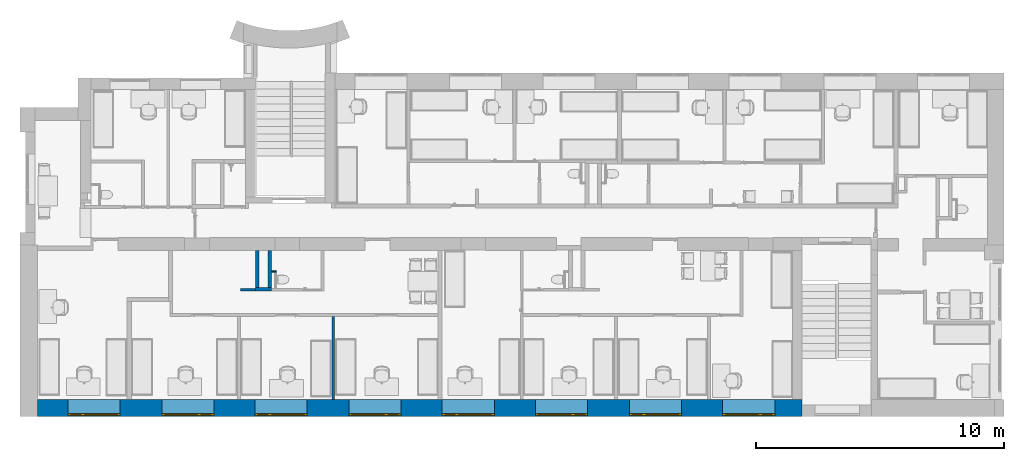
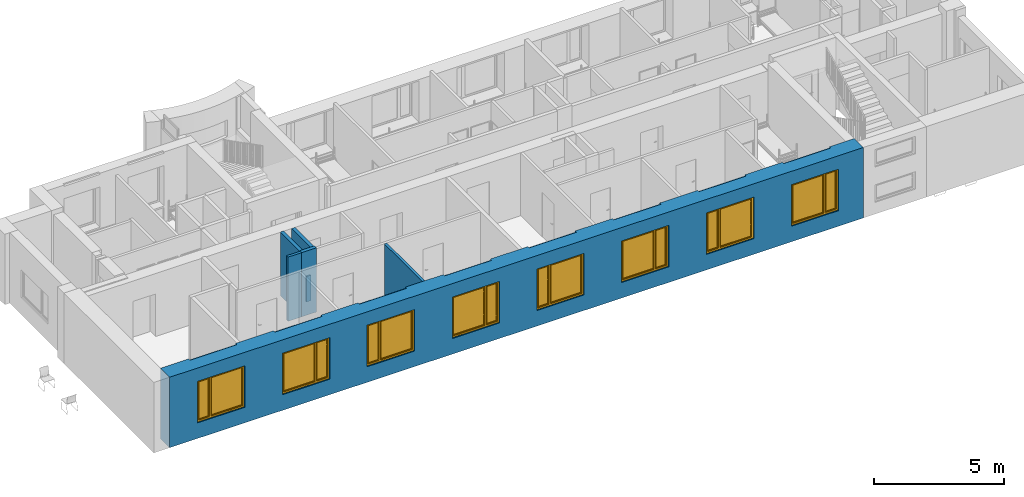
# One storey, part 3 of 48: 8 windows, 7 walls, 11 openings.
"""IFC2X3 building model written with IfcOpenShell, lengths in millimetres."""

from ifc_helpers import new_model, entity, si_unit, converted_unit, derived_unit, direction, frame, frame_2d, origin, place, context, subcontext, project, spatial, polyline, rectangle, extrude, clip, bounded_halfspace, faceted_brep, source, transform, mapped, material, material_list, layer, layer_set, layer_usage, type_object, type_shapes, element, fill, save


model = new_model("IFC2X3")

# Units and contexts
model_context = context("Model", 3, precision=0.01, world=origin(), true_north=direction((6.12303176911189e-17, 1.0)))
body_context = subcontext(model_context, "Body", "Model", "MODEL_VIEW")
ifc_project = project(units=[si_unit("LENGTHUNIT", "METRE", prefix="MILLI"), si_unit("AREAUNIT", "SQUARE_METRE"), si_unit("VOLUMEUNIT", "CUBIC_METRE"), converted_unit("PLANEANGLEUNIT", "DEGREE", entity("IfcRatioMeasure", 0.0174532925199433), si_unit("PLANEANGLEUNIT", "RADIAN"), dimensions=[0, 0, 0, 0, 0, 0, 0]), si_unit("MASSUNIT", "GRAM", prefix="KILO"), derived_unit("MASSDENSITYUNIT", [(si_unit("MASSUNIT", "GRAM", prefix="KILO"), 1), (si_unit("LENGTHUNIT", "METRE"), -3)]), si_unit("TIMEUNIT", "SECOND"), si_unit("FREQUENCYUNIT", "HERTZ"), si_unit("THERMODYNAMICTEMPERATUREUNIT", "DEGREE_CELSIUS"), derived_unit("THERMALTRANSMITTANCEUNIT", [(si_unit("MASSUNIT", "GRAM", prefix="KILO"), 1), (si_unit("THERMODYNAMICTEMPERATUREUNIT", "KELVIN"), -1), (si_unit("TIMEUNIT", "SECOND"), -3)]), derived_unit("VOLUMETRICFLOWRATEUNIT", [(si_unit("LENGTHUNIT", "METRE"), 3), (si_unit("TIMEUNIT", "SECOND"), -1)]), si_unit("ELECTRICCURRENTUNIT", "AMPERE"), si_unit("ELECTRICVOLTAGEUNIT", "VOLT"), si_unit("POWERUNIT", "WATT"), si_unit("FORCEUNIT", "NEWTON", prefix="KILO"), si_unit("ILLUMINANCEUNIT", "LUX"), si_unit("LUMINOUSFLUXUNIT", "LUMEN"), si_unit("LUMINOUSINTENSITYUNIT", "CANDELA"), derived_unit("USERDEFINED", [(si_unit("MASSUNIT", "GRAM", prefix="KILO"), -1), (si_unit("LENGTHUNIT", "METRE"), -2), (si_unit("TIMEUNIT", "SECOND"), 3), (si_unit("LUMINOUSFLUXUNIT", "LUMEN"), 1)]), derived_unit("LINEARVELOCITYUNIT", [(si_unit("LENGTHUNIT", "METRE"), 1), (si_unit("TIMEUNIT", "SECOND"), -1)]), si_unit("PRESSUREUNIT", "PASCAL"), derived_unit("USERDEFINED", [(si_unit("LENGTHUNIT", "METRE"), -2), (si_unit("MASSUNIT", "GRAM", prefix="KILO"), 1), (si_unit("TIMEUNIT", "SECOND"), -2)]), derived_unit("LINEARFORCEUNIT", [(si_unit("MASSUNIT", "GRAM", prefix="KILO"), 1), (si_unit("LENGTHUNIT", "METRE"), 1), (si_unit("TIMEUNIT", "SECOND"), -2), (si_unit("LENGTHUNIT", "METRE"), -1)]), derived_unit("PLANARFORCEUNIT", [(si_unit("MASSUNIT", "GRAM", prefix="KILO"), 1), (si_unit("LENGTHUNIT", "METRE"), 1), (si_unit("TIMEUNIT", "SECOND"), -2), (si_unit("LENGTHUNIT", "METRE"), -2)])], contexts=[model_context])

# Site, building, storey
site_placement = place(None, origin())
site = spatial("IfcSite", under=ifc_project, at=site_placement, Name="Default", CompositionType="ELEMENT")
building_placement = place(site_placement, origin())
building = spatial("IfcBuilding", under=site, at=building_placement, Name="SMA ARH", CompositionType="ELEMENT")
storey_placement = place(building_placement, frame((0.0, 0.0, 6600.0)))
storey = spatial("IfcBuildingStorey", under=building, at=storey_placement, Name="3 Korrus", CompositionType="ELEMENT", Elevation=6599.99999999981)

# Wall, openings, windows
ifc_material_1 = material(Name="_ol.olev sein")
ifc_layer_1 = layer(ifc_material_1, 700.0)
ifc_layer_set_1 = layer_set([ifc_layer_1], Name="Basic Wall:Generic - 700mm")
ifc_layer_usage_1 = layer_usage(ifc_layer_set_1, "AXIS2", "POSITIVE", -350.0)
wall_type_1 = type_object("IfcWallType", Name="Basic Wall:Generic - 700mm", PredefinedType="STANDARD", material=ifc_layer_set_1)
wall_1_placement = place(storey_placement, frame((0.0, -350.0, 0.0)))
wall_1 = element("IfcWallStandardCase", 1, at=wall_1_placement, inside=storey, type_object=wall_type_1, material=ifc_layer_usage_1, Name="Basic Wall:Generic - 700mm", ObjectType="Basic Wall:Generic - 700mm", context=body_context, shape_type="SweptSolid", body=[
    extrude(rectangle(XDim=30830.0, YDim=700.0, at=frame_2d((15415.0, 8.5265128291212e-14), x_axis=(-1.0, 0.0))), origin(), (0.0, 0.0, 1.0), 3309.99999999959),
])
opening_1_placement = place(wall_1_placement, origin())
element("IfcOpeningElement", 2, at=opening_1_placement, cuts=wall_1, Name="Basic Wall:Generic - 700mm", ObjectType="Recess", context=body_context, shape_type="SweptSolid", body=[
    extrude(rectangle(XDim=761.05, YDim=2098.41008000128, at=frame_2d((-2.1600499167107e-12, 0.0), x_axis=(0.0, 1.0))), frame((28680.7949599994, 250.0, 319.475000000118), z_axis=(0.0, 1.0, 0.0), x_axis=(1.0, 0.0, 0.0)), (0.0, 0.0, 1.0), 100.0),
    extrude(rectangle(XDim=761.05, YDim=2098.41008000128, at=frame_2d((2.1600499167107e-12, 0.0), x_axis=(0.0, 1.0))), frame((24915.7949599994, 250.0, 319.47500000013), z_axis=(0.0, 1.0, 0.0), x_axis=(1.0, 0.0, 0.0)), (0.0, 0.0, 1.0), 100.0),
    extrude(rectangle(XDim=761.05, YDim=2098.41008000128, at=frame_2d((-2.1600499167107e-12, 0.0), x_axis=(0.0, 1.0))), frame((21130.7949599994, 250.0, 319.475000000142), z_axis=(0.0, 1.0, 0.0), x_axis=(1.0, 0.0, 0.0)), (0.0, 0.0, 1.0), 100.0),
    extrude(rectangle(XDim=761.05, YDim=2098.41008000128, at=frame_2d((0.0, 0.0), x_axis=(0.0, 1.0))), frame((17370.7949599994, 250.0, 319.475000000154), z_axis=(0.0, 1.0, 0.0), x_axis=(1.0, 0.0, 0.0)), (0.0, 0.0, 1.0), 100.0),
    extrude(rectangle(XDim=761.05, YDim=2098.41008000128, at=frame_2d((-2.1600499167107e-12, 0.0), x_axis=(0.0, 1.0))), frame((13610.7949599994, 250.0, 319.475000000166), z_axis=(0.0, 1.0, 0.0), x_axis=(1.0, 0.0, 0.0)), (0.0, 0.0, 1.0), 100.0),
    extrude(rectangle(XDim=761.05, YDim=2098.41008000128, at=frame_2d((0.0, 0.0), x_axis=(0.0, 1.0))), frame((9830.79495999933, 250.0, 319.475000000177), z_axis=(0.0, 1.0, 0.0), x_axis=(1.0, 0.0, 0.0)), (0.0, 0.0, 1.0), 100.0),
    extrude(rectangle(XDim=761.05, YDim=2098.41008000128, at=frame_2d((0.0, 0.0), x_axis=(0.0, 1.0))), frame((6070.79495999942, 250.0, 319.475000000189), z_axis=(0.0, 1.0, 0.0), x_axis=(1.0, 0.0, 0.0)), (0.0, 0.0, 1.0), 100.0),
    extrude(rectangle(XDim=761.05, YDim=2098.41008000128, at=frame_2d((1.13686837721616e-13, 0.0), x_axis=(0.0, 1.0))), frame((2290.79495999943, 250.0, 319.475000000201), z_axis=(0.0, 1.0, 0.0), x_axis=(1.0, 0.0, 0.0)), (0.0, 0.0, 1.0), 100.0),
    extrude(rectangle(XDim=761.05, YDim=2098.41008000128, at=frame_2d((2.1600499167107e-12, 0.0), x_axis=(0.0, 1.0))), frame((28680.7949599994, 250.0, 3629.47499999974), z_axis=(0.0, 1.0, 0.0), x_axis=(1.0, 0.0, 0.0)), (0.0, 0.0, 1.0), 100.0),
    extrude(rectangle(XDim=761.05, YDim=2098.41008000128, at=frame_2d((-2.1600499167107e-12, 0.0), x_axis=(0.0, 1.0))), frame((24915.7949599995, 250.0, 3629.47499999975), z_axis=(0.0, 1.0, 0.0), x_axis=(1.0, 0.0, 0.0)), (0.0, 0.0, 1.0), 100.0),
    extrude(rectangle(XDim=761.05, YDim=2098.41008000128, at=frame_2d((0.0, 0.0), x_axis=(0.0, 1.0))), frame((21130.7949599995, 250.0, 3629.47499999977), z_axis=(0.0, 1.0, 0.0), x_axis=(1.0, 0.0, 0.0)), (0.0, 0.0, 1.0), 100.0),
    extrude(rectangle(XDim=761.05, YDim=2098.41008000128, at=frame_2d((0.0, 0.0), x_axis=(0.0, 1.0))), frame((17370.7949599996, 250.0, 3629.47499999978), z_axis=(0.0, 1.0, 0.0), x_axis=(1.0, 0.0, 0.0)), (0.0, 0.0, 1.0), 100.0),
    extrude(rectangle(XDim=761.05, YDim=2098.41008000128, at=frame_2d((0.0, 0.0), x_axis=(0.0, 1.0))), frame((13610.7949599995, 250.0, 3629.47499999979), z_axis=(0.0, 1.0, 0.0), x_axis=(1.0, 0.0, 0.0)), (0.0, 0.0, 1.0), 100.0),
    extrude(rectangle(XDim=761.05, YDim=2098.41008000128, at=frame_2d((0.0, 0.0), x_axis=(0.0, 1.0))), frame((9830.79495999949, 250.0, 3629.47499999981), z_axis=(0.0, 1.0, 0.0), x_axis=(1.0, 0.0, 0.0)), (0.0, 0.0, 1.0), 100.0),
    extrude(rectangle(XDim=761.05, YDim=2098.41008000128, at=frame_2d((0.0, 0.0), x_axis=(0.0, 1.0))), frame((6070.79495999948, 250.0, 3629.47499999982), z_axis=(0.0, 1.0, 0.0), x_axis=(1.0, 0.0, 0.0)), (0.0, 0.0, 1.0), 100.0),
    extrude(rectangle(XDim=761.05, YDim=2098.41008000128, at=frame_2d((1.13686837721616e-13, 0.0), x_axis=(0.0, 1.0))), frame((2290.79495999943, 250.0, 3629.47499999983), z_axis=(0.0, 1.0, 0.0), x_axis=(1.0, 0.0, 0.0)), (0.0, 0.0, 1.0), 100.0),
])
opening_2_placement = place(wall_1_placement, origin())
element("IfcOpeningElement", 3, at=opening_2_placement, cuts=wall_1, Name="Basic Wall:Generic - 700mm", ObjectType="Opening", context=body_context, shape_type="SweptSolid", body=[
    extrude(rectangle(XDim=820.0, YDim=1800.0, at=frame_2d((0.0, 0.0), x_axis=(0.0, 1.0))), frame((32250.0, -1404.0, 960.0), z_axis=(0.0, 1.0, 0.0), x_axis=(-1.0, 0.0, 0.0)), (0.0, 0.0, 1.0), 3048.0),
])
opening_3_placement = place(wall_1_placement, origin())
element("IfcOpeningElement", 4, at=opening_3_placement, cuts=wall_1, Name="Basic Wall:Generic - 700mm", ObjectType="Opening", context=body_context, shape_type="SweptSolid", body=[
    extrude(rectangle(XDim=820.0, YDim=1800.0, at=frame_2d((0.0, 0.0), x_axis=(0.0, 1.0))), frame((32250.0, -1404.0, 2620.0), z_axis=(0.0, 1.0, 0.0), x_axis=(-1.0, 0.0, 0.0)), (0.0, 0.0, 1.0), 3048.0),
])
opening_4_placement = place(wall_1_placement, frame((3340.0, 350.0, 730.0)))
opening_4 = element("IfcOpeningElement", 5, at=opening_4_placement, cuts=wall_1, Name="SMA_W2, 2-jaotus:A-00 - 2100x1900:1", ObjectType="Opening", context=body_context, shape_type="SweptSolid", body=[
    extrude(rectangle(XDim=1950.0, YDim=2100.0, at=frame_2d((975.0, 1050.0), x_axis=(1.0, 0.0))), frame((0.0, 0.0, 0.0), z_axis=(0.0, -1.0, 0.0), x_axis=(0.0, 0.0, 1.0)), (0.0, 0.0, 1.0), 700.0),
])
opening_5_placement = place(wall_1_placement, frame((7120.0, 350.0, 730.0)))
opening_5 = element("IfcOpeningElement", 6, at=opening_5_placement, cuts=wall_1, Name="SMA_W2, 2-jaotus:A-00 - 2100x1900:1", ObjectType="Opening", context=body_context, shape_type="SweptSolid", body=[
    extrude(rectangle(XDim=1950.0, YDim=2100.0, at=frame_2d((975.0, 1050.0), x_axis=(1.0, 0.0))), frame((0.0, 0.0, 0.0), z_axis=(0.0, -1.0, 0.0), x_axis=(0.0, 0.0, 1.0)), (0.0, 0.0, 1.0), 700.0),
])
opening_6_placement = place(wall_1_placement, frame((10880.0, 350.0, 730.0)))
opening_6 = element("IfcOpeningElement", 7, at=opening_6_placement, cuts=wall_1, Name="SMA_W2, 2-jaotus:A-00 - 2100x1900:1", ObjectType="Opening", context=body_context, shape_type="SweptSolid", body=[
    extrude(rectangle(XDim=1950.0, YDim=2100.0, at=frame_2d((975.0, 1050.0), x_axis=(1.0, 0.0))), frame((0.0, 0.0, 0.0), z_axis=(0.0, -1.0, 0.0), x_axis=(0.0, 0.0, 1.0)), (0.0, 0.0, 1.0), 700.0),
])
opening_7_placement = place(wall_1_placement, frame((14660.0, 350.0, 730.0)))
opening_7 = element("IfcOpeningElement", 8, at=opening_7_placement, cuts=wall_1, Name="SMA_W2, 2-jaotus:A-00 - 2100x1900:1", ObjectType="Opening", context=body_context, shape_type="SweptSolid", body=[
    extrude(rectangle(XDim=1950.0, YDim=2100.0, at=frame_2d((975.0, 1050.0), x_axis=(1.0, 0.0))), frame((0.0, 0.0, 0.0), z_axis=(0.0, -1.0, 0.0), x_axis=(0.0, 0.0, 1.0)), (0.0, 0.0, 1.0), 700.0),
])
opening_8_placement = place(wall_1_placement, frame((18420.0, 350.0, 730.0)))
opening_8 = element("IfcOpeningElement", 9, at=opening_8_placement, cuts=wall_1, Name="SMA_W2, 2-jaotus:A-00 - 2100x1900:1", ObjectType="Opening", context=body_context, shape_type="SweptSolid", body=[
    extrude(rectangle(XDim=1950.0, YDim=2100.0, at=frame_2d((975.0, 1050.0), x_axis=(1.0, 0.0))), frame((0.0, 0.0, 0.0), z_axis=(0.0, -1.0, 0.0), x_axis=(0.0, 0.0, 1.0)), (0.0, 0.0, 1.0), 700.0),
])
opening_9_placement = place(wall_1_placement, frame((22180.0, 350.0, 730.0)))
opening_9 = element("IfcOpeningElement", 10, at=opening_9_placement, cuts=wall_1, Name="SMA_W2, 2-jaotus:A-00 - 2100x1900:1", ObjectType="Opening", context=body_context, shape_type="SweptSolid", body=[
    extrude(rectangle(XDim=1950.0, YDim=2100.0, at=frame_2d((975.0, 1050.0), x_axis=(1.0, 0.0))), frame((0.0, 0.0, 0.0), z_axis=(0.0, -1.0, 0.0), x_axis=(0.0, 0.0, 1.0)), (0.0, 0.0, 1.0), 700.0),
])
opening_10_placement = place(wall_1_placement, frame((25965.0, 350.0, 730.0)))
opening_10 = element("IfcOpeningElement", 11, at=opening_10_placement, cuts=wall_1, Name="SMA_W2, 2-jaotus:A-00 - 2100x1900:1", ObjectType="Opening", context=body_context, shape_type="SweptSolid", body=[
    extrude(rectangle(XDim=1950.0, YDim=2100.0, at=frame_2d((975.0, 1050.0), x_axis=(1.0, 0.0))), frame((0.0, 0.0, 0.0), z_axis=(0.0, -1.0, 0.0), x_axis=(0.0, 0.0, 1.0)), (0.0, 0.0, 1.0), 700.0),
])
opening_11_placement = place(wall_1_placement, frame((29730.0, 350.0, 730.0)))
opening_11 = element("IfcOpeningElement", 12, at=opening_11_placement, cuts=wall_1, Name="SMA_W2, 2-jaotus:A-00 - 2100x1900:1", ObjectType="Opening", context=body_context, shape_type="SweptSolid", body=[
    extrude(rectangle(XDim=1950.0, YDim=2100.0, at=frame_2d((975.0, 1050.0), x_axis=(1.0, 0.0))), frame((0.0, 0.0, 0.0), z_axis=(0.0, -1.0, 0.0), x_axis=(0.0, 0.0, 1.0)), (0.0, 0.0, 1.0), 700.0),
])
ifc_material_2 = material(Name="Glass")
ifc_material_3 = material(Name="Hall")
ifc_material_list_1 = material_list([ifc_material_2, ifc_material_3])
ifc_material_4 = material(Name="<Unnamed>")
ifc_material_list_2 = material_list([ifc_material_4, ifc_material_3, ifc_material_3, ifc_material_2, ifc_material_4])
window_style_1 = type_object("IfcWindowStyle", Name="SMA_W2, 2-jaotus:A-00 - 2100x1900", ConstructionType="NOTDEFINED", OperationType="NOTDEFINED", ParameterTakesPrecedence=False, Sizeable=False, material=ifc_material_list_2)
shared_shape_1 = source(origin(), body_context, "Body", "Brep", [
    faceted_brep([(1995.0, 590.0, 1845.0), (660.0, 590.0, 1845.0), (660.0, 590.0, 105.0), (1995.0, 590.0, 105.0), (1995.0, 610.0, 105.0), (1995.0, 610.0, 1845.0), (660.0, 610.0, 105.0), (660.0, 610.0, 1845.0)], [[[0, 1, 2, 3]], [[3, 4, 5, 0]], [[2, 6, 4, 3]], [[1, 7, 6, 2]], [[5, 4, 6, 7]], [[0, 5, 7, 1]]]),
    faceted_brep([(520.0, 590.0, 105.0), (520.0, 590.0, 1845.0), (105.0, 590.0, 1845.0), (105.0, 590.0, 105.0), (105.0, 610.0, 105.0), (520.0, 610.0, 105.0), (105.0, 610.0, 1845.0), (520.0, 610.0, 1845.0)], [[[0, 1, 2, 3]], [[3, 4, 5, 0]], [[2, 6, 4, 3]], [[0, 5, 7, 1]], [[5, 4, 6, 7]], [[1, 7, 6, 2]]]),
    faceted_brep([(2065.0, 575.0, 35.0), (2065.0, 575.0, 1915.0), (590.0, 575.0, 1915.0), (590.0, 575.0, 35.0), (660.0, 575.0, 1845.0), (1995.0, 575.0, 1845.0), (1995.0, 575.0, 105.0), (660.0, 575.0, 105.0), (590.0, 625.0, 35.0), (2065.0, 625.0, 35.0), (590.0, 625.0, 1915.0), (2065.0, 625.0, 1915.0), (660.0, 625.0, 105.0), (660.0, 625.0, 1845.0), (1995.0, 625.0, 105.0), (1995.0, 625.0, 1845.0)], [[[0, 1, 2, 3], [4, 5, 6, 7]], [[3, 8, 9, 0]], [[2, 10, 8, 3]], [[0, 9, 11, 1]], [[7, 12, 13, 4]], [[6, 14, 12, 7]], [[5, 15, 14, 6]], [[9, 8, 10, 11], [13, 12, 14, 15]], [[1, 11, 10, 2]], [[4, 13, 15, 5]]]),
    faceted_brep([(590.0, 575.0, 35.0), (590.0, 575.0, 1915.0), (35.0, 575.0, 1915.0), (35.0, 575.0, 35.0), (105.0, 575.0, 1845.0), (520.0, 575.0, 1845.0), (520.0, 575.0, 105.0), (105.0, 575.0, 105.0), (35.0, 625.0, 35.0), (590.0, 625.0, 35.0), (35.0, 625.0, 1915.0), (590.0, 625.0, 1915.0), (105.0, 625.0, 105.0), (105.0, 625.0, 1845.0), (520.0, 625.0, 105.0), (520.0, 625.0, 1845.0)], [[[0, 1, 2, 3], [4, 5, 6, 7]], [[3, 8, 9, 0]], [[2, 10, 8, 3]], [[0, 9, 11, 1]], [[7, 12, 13, 4]], [[6, 14, 12, 7]], [[5, 15, 14, 6]], [[9, 8, 10, 11], [13, 12, 14, 15]], [[1, 11, 10, 2]], [[4, 13, 15, 5]]]),
    faceted_brep([(35.0, 600.0, 35.0), (35.0, 600.0, 1915.0), (590.0, 600.0, 1915.0), (590.0, 600.0, 35.0), (2030.0, 600.0, 1880.0), (2030.0, 600.0, 70.0), (625.0, 600.0, 70.0), (625.0, 600.0, 1880.0), (2100.0, 600.0, 0.0), (2100.0, 600.0, 1950.0), (0.0, 600.0, 1950.0), (0.0, 600.0, 0.0), (0.0, 650.0, 0.0), (2100.0, 650.0, 0.0), (0.0, 650.0, 1950.0), (2100.0, 650.0, 1950.0), (625.0, 650.0, 70.0), (625.0, 650.0, 1880.0), (2030.0, 650.0, 70.0), (2030.0, 650.0, 1880.0), (35.0, 625.0, 35.0), (590.0, 625.0, 35.0), (590.0, 625.0, 1915.0), (35.0, 625.0, 1915.0), (555.0, 650.0, 1880.0), (70.0, 650.0, 1880.0), (70.0, 650.0, 70.0), (555.0, 650.0, 70.0), (555.0, 625.0, 70.0), (555.0, 625.0, 1880.0), (70.0, 625.0, 70.0), (70.0, 625.0, 1880.0)], [[[0, 1, 2, 3], [4, 5, 6, 7], [8, 9, 10, 11]], [[11, 12, 13, 8]], [[10, 14, 12, 11]], [[8, 13, 15, 9]], [[6, 16, 17, 7]], [[5, 18, 16, 6]], [[4, 19, 18, 5]], [[20, 0, 3, 21]], [[21, 3, 2, 22]], [[23, 1, 0, 20]], [[13, 12, 14, 15], [19, 17, 16, 18], [24, 25, 26, 27]], [[27, 28, 29, 24]], [[26, 30, 28, 27]], [[25, 31, 30, 26]], [[21, 22, 23, 20], [29, 28, 30, 31]], [[9, 15, 14, 10]], [[7, 17, 19, 4]], [[22, 2, 1, 23]], [[24, 29, 31, 25]]], outer=[[False, False, True], [True], [True], [True], [True], [True], [True], [True], [True], [True], [True, False, False], [True], [True], [True], [True, False], [True], [True], [True], [True]]),
])
type_shapes(window_style_1, [shared_shape_1])
window_1_placement = place(opening_5_placement, frame((0.0, 0.0, 0.0), z_axis=(0.0, 0.0, 1.0), x_axis=(-1.0, 0.0, 0.0)))
window_1 = element("IfcWindow", 13, at=window_1_placement, inside=storey, type_object=window_style_1, material=ifc_material_list_1, Name="SMA_W2, 2-jaotus:A-00 - 2100x1900", ObjectType="SMA_W2, 2-jaotus:A-00 - 2100x1900", OverallHeight=1950.0, OverallWidth=2100.0, context=body_context, shape_type="MappedRepresentation", body=[
    mapped(shared_shape_1, transform((0.0, 0.0, 0.0), scale=1.0)),
])
fill(opening_5, window_1)
ifc_material_list_3 = material_list([ifc_material_2, ifc_material_3])
window_2_placement = place(opening_7_placement, frame((0.0, 0.0, 0.0), z_axis=(0.0, 0.0, 1.0), x_axis=(-1.0, 0.0, 0.0)))
window_2 = element("IfcWindow", 14, at=window_2_placement, inside=storey, type_object=window_style_1, material=ifc_material_list_3, Name="SMA_W2, 2-jaotus:A-00 - 2100x1900", ObjectType="SMA_W2, 2-jaotus:A-00 - 2100x1900", OverallHeight=1950.0, OverallWidth=2100.0, context=body_context, shape_type="MappedRepresentation", body=[
    mapped(shared_shape_1, transform((0.0, 0.0, 0.0), scale=1.0)),
])
fill(opening_7, window_2)
ifc_material_list_4 = material_list([ifc_material_2, ifc_material_3])
window_3_placement = place(opening_9_placement, frame((0.0, 0.0, 0.0), z_axis=(0.0, 0.0, 1.0), x_axis=(-1.0, 0.0, 0.0)))
window_3 = element("IfcWindow", 15, at=window_3_placement, inside=storey, type_object=window_style_1, material=ifc_material_list_4, Name="SMA_W2, 2-jaotus:A-00 - 2100x1900", ObjectType="SMA_W2, 2-jaotus:A-00 - 2100x1900", OverallHeight=1950.0, OverallWidth=2100.0, context=body_context, shape_type="MappedRepresentation", body=[
    mapped(shared_shape_1, transform((0.0, 0.0, 0.0), scale=1.0)),
])
fill(opening_9, window_3)
ifc_material_list_5 = material_list([ifc_material_2, ifc_material_3])
window_4_placement = place(opening_11_placement, frame((0.0, 0.0, 0.0), z_axis=(0.0, 0.0, 1.0), x_axis=(-1.0, 0.0, 0.0)))
window_4 = element("IfcWindow", 16, at=window_4_placement, inside=storey, type_object=window_style_1, material=ifc_material_list_5, Name="SMA_W2, 2-jaotus:A-00 - 2100x1900", ObjectType="SMA_W2, 2-jaotus:A-00 - 2100x1900", OverallHeight=1950.0, OverallWidth=2100.0, context=body_context, shape_type="MappedRepresentation", body=[
    mapped(shared_shape_1, transform((0.0, 0.0, 0.0), scale=1.0)),
])
fill(opening_11, window_4)
ifc_material_list_6 = material_list([ifc_material_2, ifc_material_3])
ifc_material_list_7 = material_list([ifc_material_3, ifc_material_2, ifc_material_3, ifc_material_4, ifc_material_4])
window_style_2 = type_object("IfcWindowStyle", Name="SMA_W2, 2-jaotus:A-00 - 2100x1900", ConstructionType="NOTDEFINED", OperationType="NOTDEFINED", ParameterTakesPrecedence=False, Sizeable=False, material=ifc_material_list_7)
shared_shape_2 = source(origin(), body_context, "Body", "Brep", [
    faceted_brep([(105.0, 590.0, 1845.0), (105.0, 590.0, 105.0), (1440.0, 590.0, 105.0), (1440.0, 590.0, 1845.0), (105.0, 610.0, 1845.0), (105.0, 610.0, 105.0), (1440.0, 610.0, 105.0), (1440.0, 610.0, 1845.0)], [[[0, 1, 2, 3]], [[1, 0, 4, 5]], [[2, 1, 5, 6]], [[3, 2, 6, 7]], [[4, 7, 6, 5]], [[0, 3, 7, 4]]]),
    faceted_brep([(1580.0, 590.0, 105.0), (1995.0, 590.0, 105.0), (1995.0, 590.0, 1845.0), (1580.0, 590.0, 1845.0), (1580.0, 610.0, 105.0), (1995.0, 610.0, 105.0), (1995.0, 610.0, 1845.0), (1580.0, 610.0, 1845.0)], [[[0, 1, 2, 3]], [[1, 0, 4, 5]], [[2, 1, 5, 6]], [[0, 3, 7, 4]], [[4, 7, 6, 5]], [[3, 2, 6, 7]]]),
    faceted_brep([(35.0, 575.0, 35.0), (1510.0, 575.0, 35.0), (1510.0, 575.0, 1915.0), (35.0, 575.0, 1915.0), (1440.0, 575.0, 1845.0), (1440.0, 575.0, 105.0), (105.0, 575.0, 105.0), (105.0, 575.0, 1845.0), (35.0, 625.0, 35.0), (1510.0, 625.0, 35.0), (1510.0, 625.0, 1915.0), (35.0, 625.0, 1915.0), (1440.0, 625.0, 1845.0), (1440.0, 625.0, 105.0), (105.0, 625.0, 105.0), (105.0, 625.0, 1845.0)], [[[0, 1, 2, 3], [4, 5, 6, 7]], [[1, 0, 8, 9]], [[2, 1, 9, 10]], [[0, 3, 11, 8]], [[5, 4, 12, 13]], [[6, 5, 13, 14]], [[7, 6, 14, 15]], [[8, 11, 10, 9], [12, 15, 14, 13]], [[3, 2, 10, 11]], [[4, 7, 15, 12]]]),
    faceted_brep([(1510.0, 575.0, 35.0), (2065.0, 575.0, 35.0), (2065.0, 575.0, 1915.0), (1510.0, 575.0, 1915.0), (1995.0, 575.0, 1845.0), (1995.0, 575.0, 105.0), (1580.0, 575.0, 105.0), (1580.0, 575.0, 1845.0), (1510.0, 625.0, 35.0), (2065.0, 625.0, 35.0), (2065.0, 625.0, 1915.0), (1510.0, 625.0, 1915.0), (1995.0, 625.0, 1845.0), (1995.0, 625.0, 105.0), (1580.0, 625.0, 105.0), (1580.0, 625.0, 1845.0)], [[[0, 1, 2, 3], [4, 5, 6, 7]], [[1, 0, 8, 9]], [[2, 1, 9, 10]], [[0, 3, 11, 8]], [[5, 4, 12, 13]], [[6, 5, 13, 14]], [[7, 6, 14, 15]], [[8, 11, 10, 9], [12, 15, 14, 13]], [[3, 2, 10, 11]], [[4, 7, 15, 12]]]),
    faceted_brep([(0.0, 600.0, 0.0), (2100.0, 600.0, 0.0), (2100.0, 600.0, 1950.0), (0.0, 600.0, 1950.0), (2065.0, 600.0, 35.0), (1510.0, 600.0, 35.0), (1510.0, 600.0, 1915.0), (2065.0, 600.0, 1915.0), (70.0, 600.0, 1880.0), (1475.0, 600.0, 1880.0), (1475.0, 600.0, 70.0), (70.0, 600.0, 70.0), (0.0, 650.0, 0.0), (2100.0, 650.0, 0.0), (2100.0, 650.0, 1950.0), (0.0, 650.0, 1950.0), (1475.0, 650.0, 1880.0), (1475.0, 650.0, 70.0), (70.0, 650.0, 70.0), (70.0, 650.0, 1880.0), (2065.0, 625.0, 35.0), (1510.0, 625.0, 35.0), (1510.0, 625.0, 1915.0), (2065.0, 625.0, 1915.0), (1545.0, 650.0, 1880.0), (1545.0, 650.0, 70.0), (2030.0, 650.0, 70.0), (2030.0, 650.0, 1880.0), (1545.0, 625.0, 1880.0), (1545.0, 625.0, 70.0), (2030.0, 625.0, 70.0), (2030.0, 625.0, 1880.0)], [[[0, 1, 2, 3], [4, 5, 6, 7], [8, 9, 10, 11]], [[1, 0, 12, 13]], [[2, 1, 13, 14]], [[0, 3, 15, 12]], [[10, 9, 16, 17]], [[11, 10, 17, 18]], [[8, 11, 18, 19]], [[20, 21, 5, 4]], [[21, 22, 6, 5]], [[23, 20, 4, 7]], [[12, 15, 14, 13], [19, 18, 17, 16], [24, 25, 26, 27]], [[25, 24, 28, 29]], [[26, 25, 29, 30]], [[27, 26, 30, 31]], [[21, 20, 23, 22], [28, 31, 30, 29]], [[3, 2, 14, 15]], [[9, 8, 19, 16]], [[22, 23, 7, 6]], [[24, 27, 31, 28]]]),
])
type_shapes(window_style_2, [shared_shape_2])
window_5_placement = place(opening_4_placement, frame((0.0, 0.0, 0.0), z_axis=(0.0, 0.0, 1.0), x_axis=(-1.0, 0.0, 0.0)))
window_5 = element("IfcWindow", 17, at=window_5_placement, inside=storey, type_object=window_style_2, material=ifc_material_list_6, Name="SMA_W2, 2-jaotus:A-00 - 2100x1900", ObjectType="SMA_W2, 2-jaotus:A-00 - 2100x1900", OverallHeight=1950.0, OverallWidth=2100.0, context=body_context, shape_type="MappedRepresentation", body=[
    mapped(shared_shape_2, transform((0.0, 0.0, 0.0), scale=1.0)),
])
fill(opening_4, window_5)
ifc_material_list_8 = material_list([ifc_material_2, ifc_material_3])
window_6_placement = place(opening_6_placement, frame((0.0, 0.0, 0.0), z_axis=(0.0, 0.0, 1.0), x_axis=(-1.0, 0.0, 0.0)))
window_6 = element("IfcWindow", 18, at=window_6_placement, inside=storey, type_object=window_style_2, material=ifc_material_list_8, Name="SMA_W2, 2-jaotus:A-00 - 2100x1900", ObjectType="SMA_W2, 2-jaotus:A-00 - 2100x1900", OverallHeight=1950.0, OverallWidth=2100.0, context=body_context, shape_type="MappedRepresentation", body=[
    mapped(shared_shape_2, transform((0.0, 0.0, 0.0), scale=1.0)),
])
fill(opening_6, window_6)
ifc_material_list_9 = material_list([ifc_material_2, ifc_material_3])
window_7_placement = place(opening_8_placement, frame((0.0, 0.0, 0.0), z_axis=(0.0, 0.0, 1.0), x_axis=(-1.0, 0.0, 0.0)))
window_7 = element("IfcWindow", 19, at=window_7_placement, inside=storey, type_object=window_style_2, material=ifc_material_list_9, Name="SMA_W2, 2-jaotus:A-00 - 2100x1900", ObjectType="SMA_W2, 2-jaotus:A-00 - 2100x1900", OverallHeight=1950.0, OverallWidth=2100.0, context=body_context, shape_type="MappedRepresentation", body=[
    mapped(shared_shape_2, transform((0.0, 0.0, 0.0), scale=1.0)),
])
fill(opening_8, window_7)
ifc_material_list_10 = material_list([ifc_material_2, ifc_material_3])
window_8_placement = place(opening_10_placement, frame((0.0, 0.0, 0.0), z_axis=(0.0, 0.0, 1.0), x_axis=(-1.0, 0.0, 0.0)))
window_8 = element("IfcWindow", 20, at=window_8_placement, inside=storey, type_object=window_style_2, material=ifc_material_list_10, Name="SMA_W2, 2-jaotus:A-00 - 2100x1900", ObjectType="SMA_W2, 2-jaotus:A-00 - 2100x1900", OverallHeight=1950.0, OverallWidth=2100.0, context=body_context, shape_type="MappedRepresentation", body=[
    mapped(shared_shape_2, transform((0.0, 0.0, 0.0), scale=1.0)),
])
fill(opening_10, window_8)

# Walls
ifc_material_5 = material(Name="EST. Müüritis. Väikeplokk. Kergkruusplokk")
ifc_layer_2 = layer(ifc_material_5, 150.0)
ifc_layer_set_2 = layer_set([ifc_layer_2], Name="Basic Wall:SS-02_ 150mm šahtide vahesein")
ifc_layer_usage_2 = layer_usage(ifc_layer_set_2, "AXIS2", "NEGATIVE", 75.0)
wall_type_2 = type_object("IfcWallType", Name="Basic Wall:SS-02_ 150mm šahtide vahesein", PredefinedType="STANDARD", material=ifc_layer_set_2)
wall_2_placement = place(storey_placement, frame((8790.0, 4435.0, 0.0)))
element("IfcWallStandardCase", 21, at=wall_2_placement, inside=storey, type_object=wall_type_2, material=ifc_layer_usage_2, Name="Basic Wall:SS-02_ 150mm šahtide vahesein", ObjectType="Basic Wall:SS-02_ 150mm šahtide vahesein", context=body_context, shape_type="SweptSolid", body=[
    extrude(rectangle(XDim=650.000000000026, YDim=150.0, at=frame_2d((325.000000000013, -7.8159700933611e-14), x_axis=(-1.0, 0.0))), origin(), (0.0, 0.0, 1.0), 3019.99999999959),
])
ifc_layer_usage_3 = layer_usage(ifc_layer_set_2, "AXIS2", "NEGATIVE", 75.0)
wall_3_placement = place(storey_placement, frame((9365.0, 4510.0, 0.0), z_axis=(0.0, 0.0, 1.0), x_axis=(0.0, 1.0, 0.0)))
element("IfcWallStandardCase", 22, at=wall_3_placement, inside=storey, type_object=wall_type_2, material=ifc_layer_usage_3, Name="Basic Wall:SS-02_ 150mm šahtide vahesein", ObjectType="Basic Wall:SS-02_ 150mm šahtide vahesein", context=body_context, shape_type="Clipping", body=[
    clip(extrude(rectangle(XDim=1494.99999999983, YDim=150.000000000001, at=frame_2d((747.499999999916, 0.0), x_axis=(-1.0, 0.0))), origin(), (0.0, 0.0, 1.0), 2980.00000000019), bounded_halfspace(frame((0.0, -75.0, 2980.0), z_axis=(0.0, 0.0, -1.0), x_axis=(1.0, 0.0, 0.0)), True, frame((0.0, -75.0, 2980.0)), polyline([(0.0, 0.0), (1495.0, 0.0), (1495.0, 150.0), (0.0, 150.0), (0.0, 0.0)]))),
])
ifc_layer_usage_4 = layer_usage(ifc_layer_set_2, "AXIS2", "POSITIVE", -75.0)
wall_4_placement = place(storey_placement, frame((8865.0, 4510.0, 0.0), z_axis=(0.0, 0.0, 1.0), x_axis=(0.0, 1.0, 0.0)))
element("IfcWallStandardCase", 23, at=wall_4_placement, inside=storey, type_object=wall_type_2, material=ifc_layer_usage_4, Name="Basic Wall:SS-02_ 150mm šahtide vahesein", ObjectType="Basic Wall:SS-02_ 150mm šahtide vahesein", context=body_context, shape_type="SweptSolid", body=[
    extrude(rectangle(XDim=1494.99999999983, YDim=150.000000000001, at=frame_2d((747.499999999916, 0.0), x_axis=(-1.0, 0.0))), origin(), (0.0, 0.0, 1.0), 2989.99999999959),
])
ifc_material_6 = material(Name="EST. Ehitusplaat. Kipsplaat")
ifc_layer_3 = layer(ifc_material_6, 12.5)
ifc_layer_4 = layer(ifc_material_6, 12.5)
ifc_material_7 = material(Name="EST. Soojustus. Mineraalvill. Default")
ifc_layer_5 = layer(ifc_material_7, 66.0)
ifc_layer_6 = layer(ifc_material_6, 12.5)
ifc_layer_7 = layer(ifc_material_6, 12.5)
ifc_layer_set_3 = layer_set([ifc_layer_3, ifc_layer_4, ifc_layer_5, ifc_layer_6, ifc_layer_7], Name="Basic Wall:SS-05_Kips, 66mm metallkarkass")
ifc_layer_usage_5 = layer_usage(ifc_layer_set_3, "AXIS2", "NEGATIVE", 58.0)
wall_type_3 = type_object("IfcWallType", Name="Basic Wall:SS-05_Kips, 66mm metallkarkass", PredefinedType="STANDARD", material=ifc_layer_set_3)
wall_5_placement = place(storey_placement, frame((11930.0, 0.0, 0.0), z_axis=(0.0, 0.0, 1.0), x_axis=(0.0, 1.0, 0.0)))
element("IfcWallStandardCase", 24, at=wall_5_placement, inside=storey, type_object=wall_type_3, material=ifc_layer_usage_5, Name="Basic Wall:SS-05_Kips, 66mm metallkarkass", ObjectType="Basic Wall:SS-05_Kips, 66mm metallkarkass", context=body_context, shape_type="SweptSolid", body=[
    extrude(rectangle(XDim=3344.00000000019, YDim=116.0, at=frame_2d((1672.0000000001, 1.4210854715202e-14), x_axis=(-1.0, 0.0))), origin(), (0.0, 0.0, 1.0), 2970.00000000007),
])
ifc_layer_8 = layer(ifc_material_6, 12.5)
ifc_layer_9 = layer(ifc_material_6, 12.5)
ifc_material_8 = material(Name="EST. Õhkvahe. Roov. Kipsplaadi alusroov. Vertikaalne")
ifc_layer_10 = layer(ifc_material_8, 66.0)
ifc_layer_11 = layer(ifc_material_6, 12.5)
ifc_layer_12 = layer(ifc_material_6, 12.5)
ifc_layer_set_4 = layer_set([ifc_layer_8, ifc_layer_9, ifc_layer_10, ifc_layer_11, ifc_layer_12], Name="Basic Wall:SS-03_Kips, 66mm metallkarkass")
ifc_layer_usage_6 = layer_usage(ifc_layer_set_4, "AXIS2", "POSITIVE", -58.0)
wall_type_4 = type_object("IfcWallType", Name="Basic Wall:SS-03_Kips, 66mm metallkarkass", PredefinedType="STANDARD", material=ifc_layer_set_4)
wall_6_placement = place(storey_placement, frame((8865.0, 4418.0, 0.0), z_axis=(0.0, 0.0, 1.0), x_axis=(-1.0, 0.0, 0.0)))
element("IfcWallStandardCase", 25, at=wall_6_placement, inside=storey, type_object=wall_type_4, material=ifc_layer_usage_6, Name="Basic Wall:SS-03_Kips, 66mm metallkarkass", ObjectType="Basic Wall:SS-03_Kips, 66mm metallkarkass", context=body_context, shape_type="SweptSolid", body=[
    extrude(rectangle(XDim=600.000000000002, YDim=116.0, at=frame_2d((375.000000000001, 0.0), x_axis=(-1.0, 0.0))), origin(), (0.0, 0.0, 1.0), 3019.99999999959),
])
ifc_material_9 = material(Name="EST. Põrand. Plaatkate")
ifc_layer_13 = layer(ifc_material_9, 10.0)
ifc_layer_14 = layer(ifc_material_6, 12.5)
ifc_layer_15 = layer(ifc_material_8, 42.0)
ifc_layer_set_5 = layer_set([ifc_layer_13, ifc_layer_14, ifc_layer_15], Name="Basic Wall:SS-04 - loputuskast")
ifc_layer_usage_7 = layer_usage(ifc_layer_set_5, "AXIS2", "POSITIVE", -32.25)
wall_type_5 = type_object("IfcWallType", Name="Basic Wall:SS-04 - loputuskast", PredefinedType="STANDARD", material=ifc_layer_set_5)
wall_7_placement = place(storey_placement, frame((9640.0, 5160.74999999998, 0.0), z_axis=(0.0, 0.0, 1.0), x_axis=(-1.0, 0.0, 0.0)))
element("IfcWallStandardCase", 26, at=wall_7_placement, inside=storey, type_object=wall_type_5, material=ifc_layer_usage_7, Name="Basic Wall:SS-04 - loputuskast", ObjectType="Basic Wall:SS-04 - loputuskast", context=body_context, shape_type="SweptSolid", body=[
    extrude(rectangle(XDim=199.999999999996, YDim=64.5000000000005, at=frame_2d((99.9999999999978, 0.0), x_axis=(-1.0, 0.0))), origin(), (0.0, 0.0, 1.0), 1200.0),
])

save(model, "model.ifc")
